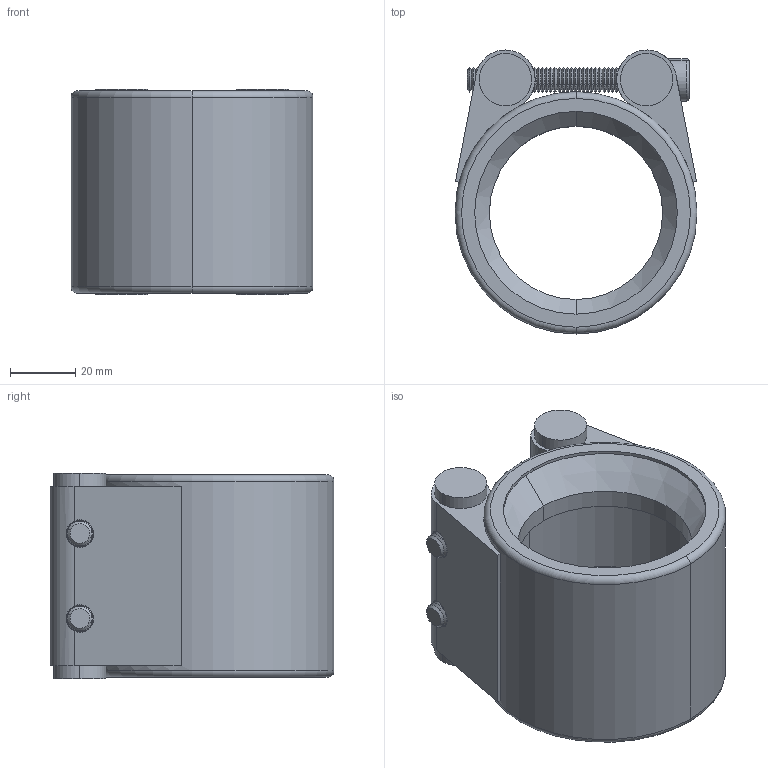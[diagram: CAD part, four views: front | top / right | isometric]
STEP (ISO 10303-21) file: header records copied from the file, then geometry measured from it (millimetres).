
FILE_DESCRIPTION (( 'STEP AP203' ), '1' );
FILE_NAME ('1-S-x-W5-x-47-52.STEP', '2017-11-27T13:32:32', ( '' ), ( '' ), 'SwSTEP 2.0', 'SolidWorks 2016', '' );
FILE_SCHEMA (( 'CONFIG_CONTROL_DESIGN' ));
Length unit declared in the file: millimetre
Products named in the file (4): Revet_M8-W5; screw-DIN-912-W5_M8X60-W5; 1-S-x-W5-x-47-52; Rohrkupplungsdummy_G16A4-47-52
Assembly tree (5 placements, depth 2):
  1-S-x-W5-x-47-52
    Rohrkupplungsdummy_G16A4-47-52
    Revet_M8-W5  x2
    screw-DIN-912-W5_M8X60-W5  x2
Bounding box: 74 x 86.83 x 63 mm (x, y, z)
Volume: 123175.3 mm3; surface area: 49427.6 mm2
Topology: 5 solids, 5 shells, 495 faces, 1035 edges, 556 vertices
Faces by surface type: cone 372, plane 54, cylinder 53, torus 16
Entity records: 8455 total; most frequent: CARTESIAN_POINT 1804, DIRECTION 1445, ORIENTED_EDGE 1198, EDGE_CURVE 599, AXIS2_PLACEMENT_3D 584, VERTEX_POINT 331, EDGE_LOOP 302, CIRCLE 294
